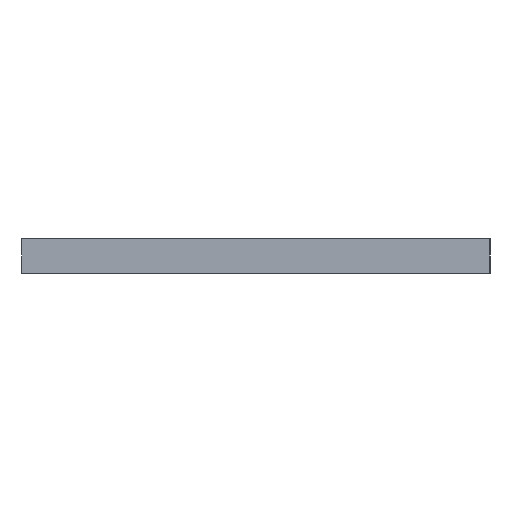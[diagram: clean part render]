
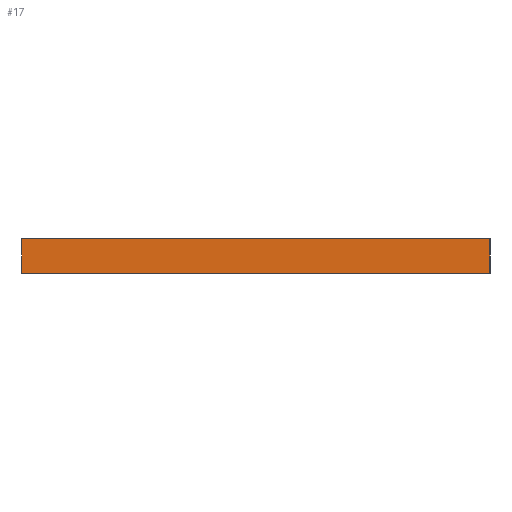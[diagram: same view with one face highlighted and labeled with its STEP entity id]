
A CAD part, left-side view. The second image highlights one B-rep face of the part: STEP entity #17.
In plain terms, the highlighted planar face has unit normal (-1, 0, 0).
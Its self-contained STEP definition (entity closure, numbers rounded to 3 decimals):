
#17 = ADVANCED_FACE('',(#18),#32,.F.);
#18 = FACE_BOUND('',#19,.F.);
#19 = EDGE_LOOP('',(#20,#55,#83,#111));
#20 = ORIENTED_EDGE('',*,*,#21,.F.);
#21 = EDGE_CURVE('',#22,#24,#26,.T.);
#22 = VERTEX_POINT('',#23);
#23 = CARTESIAN_POINT('',(-52.91,-40.85,-3.));
#24 = VERTEX_POINT('',#25);
#25 = CARTESIAN_POINT('',(-52.91,-40.85,3.));
#26 = SURFACE_CURVE('',#27,(#31,#43),.PCURVE_S1.);
#27 = LINE('',#28,#29);
#28 = CARTESIAN_POINT('',(-52.91,-40.85,-3.));
#29 = VECTOR('',#30,1.);
#30 = DIRECTION('',(0.,0.,1.));
#31 = PCURVE('',#32,#37);
#32 = PLANE('',#33);
#33 = AXIS2_PLACEMENT_3D('',#34,#35,#36);
#34 = CARTESIAN_POINT('',(-52.91,-40.85,-3.));
#35 = DIRECTION('',(1.,0.,0.));
#36 = DIRECTION('',(0.,0.,1.));
#37 = DEFINITIONAL_REPRESENTATION('',(#38),#42);
#38 = LINE('',#39,#40);
#39 = CARTESIAN_POINT('',(0.,0.));
#40 = VECTOR('',#41,1.);
#41 = DIRECTION('',(1.,0.));
#42 = ( GEOMETRIC_REPRESENTATION_CONTEXT(2) 
PARAMETRIC_REPRESENTATION_CONTEXT() REPRESENTATION_CONTEXT('2D SPACE',''
  ) );
#43 = PCURVE('',#44,#49);
#44 = PLANE('',#45);
#45 = AXIS2_PLACEMENT_3D('',#46,#47,#48);
#46 = CARTESIAN_POINT('',(-52.91,-40.85,-3.));
#47 = DIRECTION('',(0.,1.,0.));
#48 = DIRECTION('',(0.,0.,1.));
#49 = DEFINITIONAL_REPRESENTATION('',(#50),#54);
#50 = LINE('',#51,#52);
#51 = CARTESIAN_POINT('',(0.,0.));
#52 = VECTOR('',#53,1.);
#53 = DIRECTION('',(1.,0.));
#54 = ( GEOMETRIC_REPRESENTATION_CONTEXT(2) 
PARAMETRIC_REPRESENTATION_CONTEXT() REPRESENTATION_CONTEXT('2D SPACE',''
  ) );
#55 = ORIENTED_EDGE('',*,*,#56,.T.);
#56 = EDGE_CURVE('',#22,#57,#59,.T.);
#57 = VERTEX_POINT('',#58);
#58 = CARTESIAN_POINT('',(-52.91,40.85,-3.));
#59 = SURFACE_CURVE('',#60,(#64,#71),.PCURVE_S1.);
#60 = LINE('',#61,#62);
#61 = CARTESIAN_POINT('',(-52.91,-40.85,-3.));
#62 = VECTOR('',#63,1.);
#63 = DIRECTION('',(0.,1.,0.));
#64 = PCURVE('',#32,#65);
#65 = DEFINITIONAL_REPRESENTATION('',(#66),#70);
#66 = LINE('',#67,#68);
#67 = CARTESIAN_POINT('',(0.,0.));
#68 = VECTOR('',#69,1.);
#69 = DIRECTION('',(0.,-1.));
#70 = ( GEOMETRIC_REPRESENTATION_CONTEXT(2) 
PARAMETRIC_REPRESENTATION_CONTEXT() REPRESENTATION_CONTEXT('2D SPACE',''
  ) );
#71 = PCURVE('',#72,#77);
#72 = PLANE('',#73);
#73 = AXIS2_PLACEMENT_3D('',#74,#75,#76);
#74 = CARTESIAN_POINT('',(-52.91,-40.85,-3.));
#75 = DIRECTION('',(0.,0.,1.));
#76 = DIRECTION('',(1.,0.,0.));
#77 = DEFINITIONAL_REPRESENTATION('',(#78),#82);
#78 = LINE('',#79,#80);
#79 = CARTESIAN_POINT('',(0.,0.));
#80 = VECTOR('',#81,1.);
#81 = DIRECTION('',(0.,1.));
#82 = ( GEOMETRIC_REPRESENTATION_CONTEXT(2) 
PARAMETRIC_REPRESENTATION_CONTEXT() REPRESENTATION_CONTEXT('2D SPACE',''
  ) );
#83 = ORIENTED_EDGE('',*,*,#84,.T.);
#84 = EDGE_CURVE('',#57,#85,#87,.T.);
#85 = VERTEX_POINT('',#86);
#86 = CARTESIAN_POINT('',(-52.91,40.85,3.));
#87 = SURFACE_CURVE('',#88,(#92,#99),.PCURVE_S1.);
#88 = LINE('',#89,#90);
#89 = CARTESIAN_POINT('',(-52.91,40.85,-3.));
#90 = VECTOR('',#91,1.);
#91 = DIRECTION('',(0.,0.,1.));
#92 = PCURVE('',#32,#93);
#93 = DEFINITIONAL_REPRESENTATION('',(#94),#98);
#94 = LINE('',#95,#96);
#95 = CARTESIAN_POINT('',(0.,-81.7));
#96 = VECTOR('',#97,1.);
#97 = DIRECTION('',(1.,0.));
#98 = ( GEOMETRIC_REPRESENTATION_CONTEXT(2) 
PARAMETRIC_REPRESENTATION_CONTEXT() REPRESENTATION_CONTEXT('2D SPACE',''
  ) );
#99 = PCURVE('',#100,#105);
#100 = PLANE('',#101);
#101 = AXIS2_PLACEMENT_3D('',#102,#103,#104);
#102 = CARTESIAN_POINT('',(-52.91,40.85,-3.));
#103 = DIRECTION('',(0.,1.,0.));
#104 = DIRECTION('',(0.,0.,1.));
#105 = DEFINITIONAL_REPRESENTATION('',(#106),#110);
#106 = LINE('',#107,#108);
#107 = CARTESIAN_POINT('',(0.,0.));
#108 = VECTOR('',#109,1.);
#109 = DIRECTION('',(1.,0.));
#110 = ( GEOMETRIC_REPRESENTATION_CONTEXT(2) 
PARAMETRIC_REPRESENTATION_CONTEXT() REPRESENTATION_CONTEXT('2D SPACE',''
  ) );
#111 = ORIENTED_EDGE('',*,*,#112,.F.);
#112 = EDGE_CURVE('',#24,#85,#113,.T.);
#113 = SURFACE_CURVE('',#114,(#118,#125),.PCURVE_S1.);
#114 = LINE('',#115,#116);
#115 = CARTESIAN_POINT('',(-52.91,-40.85,3.));
#116 = VECTOR('',#117,1.);
#117 = DIRECTION('',(0.,1.,0.));
#118 = PCURVE('',#32,#119);
#119 = DEFINITIONAL_REPRESENTATION('',(#120),#124);
#120 = LINE('',#121,#122);
#121 = CARTESIAN_POINT('',(6.,0.));
#122 = VECTOR('',#123,1.);
#123 = DIRECTION('',(0.,-1.));
#124 = ( GEOMETRIC_REPRESENTATION_CONTEXT(2) 
PARAMETRIC_REPRESENTATION_CONTEXT() REPRESENTATION_CONTEXT('2D SPACE',''
  ) );
#125 = PCURVE('',#126,#131);
#126 = PLANE('',#127);
#127 = AXIS2_PLACEMENT_3D('',#128,#129,#130);
#128 = CARTESIAN_POINT('',(-52.91,-40.85,3.));
#129 = DIRECTION('',(0.,0.,1.));
#130 = DIRECTION('',(1.,0.,0.));
#131 = DEFINITIONAL_REPRESENTATION('',(#132),#136);
#132 = LINE('',#133,#134);
#133 = CARTESIAN_POINT('',(0.,0.));
#134 = VECTOR('',#135,1.);
#135 = DIRECTION('',(0.,1.));
#136 = ( GEOMETRIC_REPRESENTATION_CONTEXT(2) 
PARAMETRIC_REPRESENTATION_CONTEXT() REPRESENTATION_CONTEXT('2D SPACE',''
  ) );
